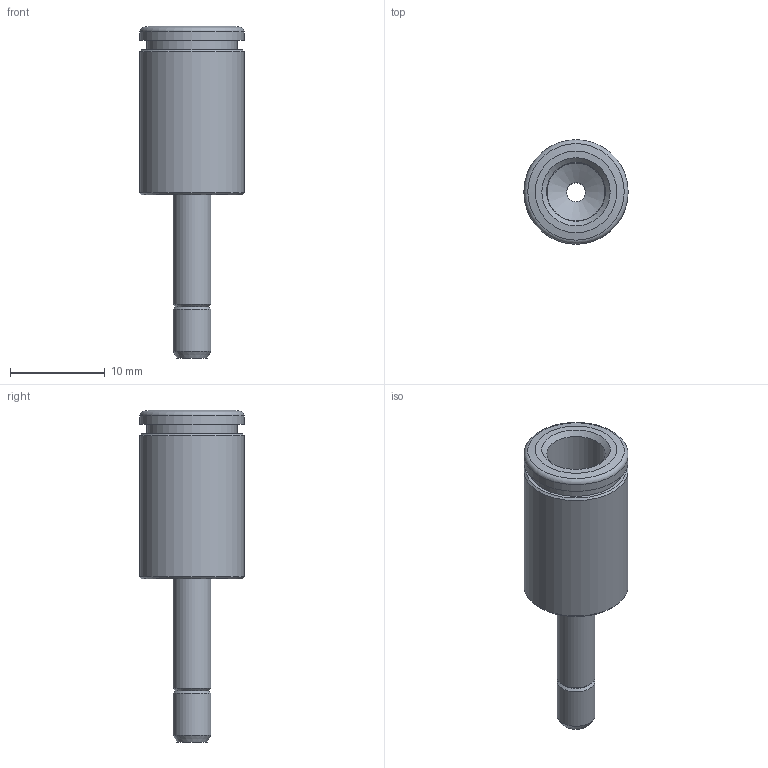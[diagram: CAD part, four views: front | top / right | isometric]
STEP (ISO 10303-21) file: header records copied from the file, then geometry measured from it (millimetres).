
FILE_DESCRIPTION(('Bauteilbeschreibung','HiCAD-Model','HiCAD-STEP-TRANSLATION','Bauteilbeschreibung'),'2;1');
FILE_NAME('B:/ABGLEICH/ZEICHNUNGEN/STEP FÜR INTERNET/STEP/IPSO 08-E/200901_IPSO_08-E_6_4.STP','2012-03-15T16:28:05+00:00',('Konstrukteur'),('Konstrukteur Firma GmbH'),' HiCAD neXt 2008, Step 3.1.1401.2J ','HiCAD neXt 2008','confidential');
FILE_SCHEMA(('AUTOMOTIVE_DESIGN { 1 2 10303 214 0 1 1 1 }'));
Length unit declared in the file: millimetre
Products named in the file (3): A00901_IPSO_08_E_6_4; R200901_N; DR6_1_NEU
Assembly tree (2 placements, depth 2):
  A00901_IPSO_08_E_6_4
    R200901_N
    DR6_1_NEU
Bounding box: 11 x 11 x 35 mm (x, y, z)
Volume: 1139.9 mm3; surface area: 1924.1 mm2
Topology: 2 solids, 2 shells, 32 faces, 59 edges, 34 vertices
Faces by surface type: cone 13, cylinder 11, plane 7, torus 1
Full cylindrical faces by diameter (mm): 2 x1, 4 x2, 6.1 x1, 6.2 x1, 8.3 x1, 9 x1, 9.5 x1, 9.6 x1, 11 x2
Entity records: 888 total; most frequent: DIRECTION 136, CARTESIAN_POINT 100, AXIS2_PLACEMENT_3D 68, EDGE_LOOP 64, ORIENTED_EDGE 64, COLOUR_RGB 34, PRESENTATION_STYLE_ASSIGNMENT 34, ADVANCED_FACE 32
